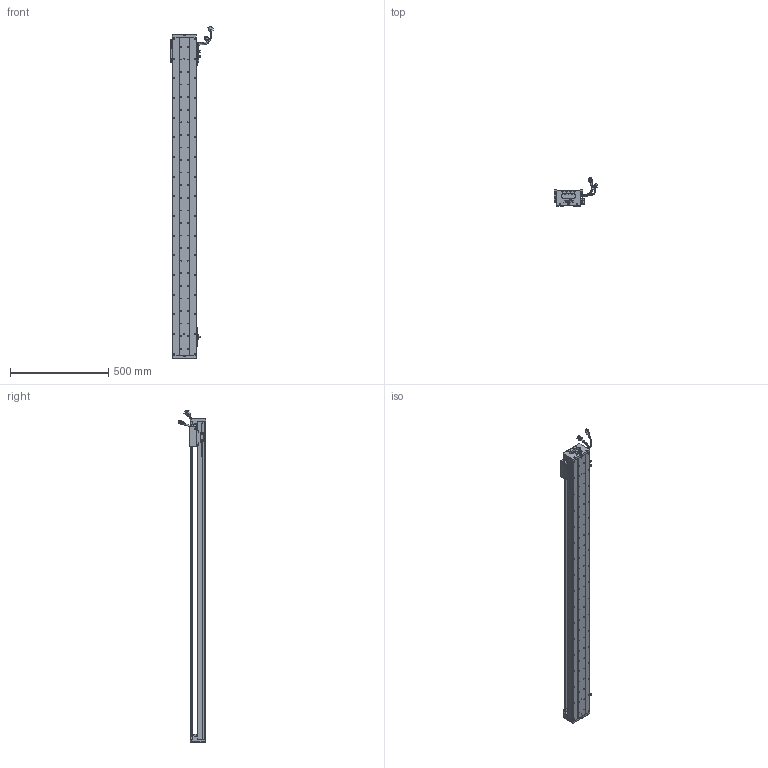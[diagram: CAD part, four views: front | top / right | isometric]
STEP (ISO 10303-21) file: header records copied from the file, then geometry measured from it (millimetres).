
FILE_DESCRIPTION (( 'STEP AP203' ), '1' );
FILE_NAME ('Z1-RY120D-1-L500-B-K.SLDASM_1450.step', '2021-05-17T03:47:31', ( '盈信电脑' ), ( '东莞市道滘镇水果街19号' ), 'SwSTEP 2.0', 'SolidWorks 2016', '' );
FILE_SCHEMA (( 'CONFIG_CONTROL_DESIGN' ));
Length unit declared in the file: millimetre
Products named in the file (37): LABEL-Part-1; PBU_SHEET; Z-RY120D詩湍狟揤裔; HARNESS-Part-1; SCREW-M1.6-1; SCALE-Part-2; SCALE; 覜茼ん672; SEAL; 080黍杅芛假蚾釱21遴; 140蚥薯蝶輸; SCREW-M1.7-1; Z1-RY120D-1-L500-B-K.SLDASM_1450; LABEL; HARNESS; HOLDER0; SCREW-M1.7; SCALE-Part-1; SCREW-M1.6-3; SCREW-M1.6; COVER; RY100FB-遵嫖萇覜茼え; SCREW-M1.6-2; 672嫖萇羲壽假蚾釱; SEAL-Part-1; 榋妏寠巭燃_暯_M2_2; 120-Z-臏賑輸盄裔(21遴); Z1-RY120铝滑块（21款）; Z-RY120D詩湍奻揤裔; Z1-RY120-500-倰第菁釱_1450; Z-120詩湍傷裔啣; 140雄赽晤鎢ん堤盄; COVER-Part-1; Z1-RY120-L500詩湍100mm遵_1450; SHIELDPLATE; HARNESS-Part-2; PSLH080_PSLF2
Assembly tree (43 placements, depth 4):
  Z1-RY120D-1-L500-B-K.SLDASM_1450
    Z1-RY120-500-倰第菁釱_1450
    覜茼ん672  x3
    672嫖萇羲壽假蚾釱  x2
    Z1-RY120铝滑块（21款）
    PSLH080_PSLF2
      SCALE
        SCALE-Part-1
        SCALE-Part-2
      HARNESS
        HARNESS-Part-1
        HARNESS-Part-2
      LABEL
        LABEL-Part-1
      COVER
        COVER-Part-1
      SEAL
        SEAL-Part-1
      榋妏寠巭燃_暯_M2_2
      SHIELDPLATE
      SCREW-M1.7
      SCREW-M1.7-1
      PBU_SHEET
      SCREW-M1.6
      SCREW-M1.6-1
      SCREW-M1.6-2
      SCREW-M1.6-3
      HOLDER0
    080黍杅芛假蚾釱21遴
    120-Z-臏賑輸盄裔(21遴)
    140雄赽晤鎢ん堤盄
    140蚥薯蝶輸  x2
    RY100FB-遵嫖萇覜茼え
    Z-120詩湍傷裔啣  x2
    Z-RY120D詩湍奻揤裔  x2
    Z-RY120D詩湍狟揤裔  x2
    Z1-RY120-L500詩湍100mm遵_1450
Bounding box: 222.86 x 140.94 x 1688.99 mm (x, y, z)
Volume: 3957175.4 mm3; surface area: 1408130.5 mm2
Topology: 38 solids, 38 shells, 3093 faces, 8598 edges, 5436 vertices
Faces by surface type: cylinder 1502, plane 1167, cone 302, torus 69, bspline 53
Entity records: 98411 total; most frequent: CARTESIAN_POINT 28568, ORIENTED_EDGE 14116, DIRECTION 13272, EDGE_CURVE 7058, AXIS2_PLACEMENT_3D 4854, VERTEX_POINT 4556, LINE 3564, VECTOR 3564
